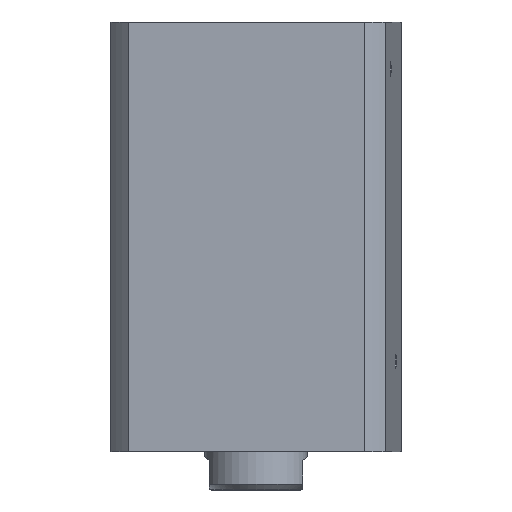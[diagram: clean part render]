
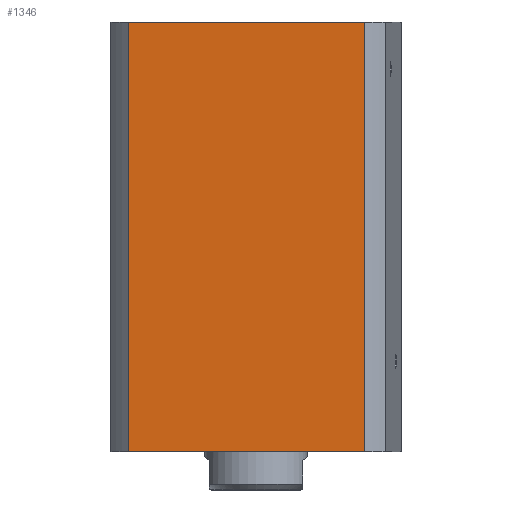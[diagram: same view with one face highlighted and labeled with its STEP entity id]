
A CAD part, front view. The second image highlights one B-rep face of the part: STEP entity #1346.
In plain terms, the highlighted planar face has unit normal (-0.067, -0.998, 0) as drawn and (0, 1, 0) by its records, which use the part's own axes.
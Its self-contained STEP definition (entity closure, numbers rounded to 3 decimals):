
#259 = VECTOR ( 'NONE', #1183, 1000. ) ;
#713 = LINE ( 'NONE', #6546, #259 ) ;
#1183 = DIRECTION ( 'NONE',  ( -1., 0., 0. ) ) ;
#1228 = VECTOR ( 'NONE', #14742, 1000. ) ;
#1346 = ADVANCED_FACE ( 'NONE', ( #14688 ), #11500, .F. ) ;
#2133 = DIRECTION ( 'NONE',  ( -1., 0., 0. ) ) ;
#2269 = EDGE_CURVE ( 'NONE', #15147, #3700, #713, .T. ) ;
#2330 = CARTESIAN_POINT ( 'NONE',  ( 40.435, 47., -453. ) ) ;
#3187 = LINE ( 'NONE', #16634, #10482 ) ;
#3421 = CARTESIAN_POINT ( 'NONE',  ( -47., 47., 147. ) ) ;
#3700 = VERTEX_POINT ( 'NONE', #11102 ) ;
#6546 = CARTESIAN_POINT ( 'NONE',  ( -47., 47., 0. ) ) ;
#6791 = VERTEX_POINT ( 'NONE', #7885 ) ;
#7448 = EDGE_CURVE ( 'NONE', #16850, #3700, #3187, .T. ) ;
#7885 = CARTESIAN_POINT ( 'NONE',  ( 40.435, 47., 147. ) ) ;
#8057 = ORIENTED_EDGE ( 'NONE', *, *, #7448, .F. ) ;
#8420 = DIRECTION ( 'NONE',  ( 0., 0., -1. ) ) ;
#9195 = VECTOR ( 'NONE', #2133, 1000. ) ;
#10431 = CARTESIAN_POINT ( 'NONE',  ( -40.435, 47., 147. ) ) ;
#10482 = VECTOR ( 'NONE', #8420, 1000. ) ;
#10868 = EDGE_CURVE ( 'NONE', #6791, #16850, #13263, .T. ) ;
#11102 = CARTESIAN_POINT ( 'NONE',  ( -40.435, 47., 0. ) ) ;
#11500 = PLANE ( 'NONE',  #17190 ) ;
#11621 = DIRECTION ( 'NONE',  ( 0., -1., 0. ) ) ;
#11827 = EDGE_LOOP ( 'NONE', ( #16286, #13911, #8057, #11934 ) ) ;
#11934 = ORIENTED_EDGE ( 'NONE', *, *, #10868, .F. ) ;
#12184 = LINE ( 'NONE', #2330, #1228 ) ;
#12997 = DIRECTION ( 'NONE',  ( 0., 0., -1. ) ) ;
#13157 = CARTESIAN_POINT ( 'NONE',  ( -47., 47., 147. ) ) ;
#13263 = LINE ( 'NONE', #13157, #9195 ) ;
#13911 = ORIENTED_EDGE ( 'NONE', *, *, #2269, .T. ) ;
#13974 = EDGE_CURVE ( 'NONE', #15147, #6791, #12184, .T. ) ;
#14676 = CARTESIAN_POINT ( 'NONE',  ( 40.435, 47., 0. ) ) ;
#14688 = FACE_OUTER_BOUND ( 'NONE', #11827, .T. ) ;
#14742 = DIRECTION ( 'NONE',  ( 0., 0., 1. ) ) ;
#15147 = VERTEX_POINT ( 'NONE', #14676 ) ;
#16286 = ORIENTED_EDGE ( 'NONE', *, *, #13974, .F. ) ;
#16634 = CARTESIAN_POINT ( 'NONE',  ( -40.435, 47., -453. ) ) ;
#16850 = VERTEX_POINT ( 'NONE', #10431 ) ;
#17190 = AXIS2_PLACEMENT_3D ( 'NONE', #3421, #11621, #12997 ) ;
